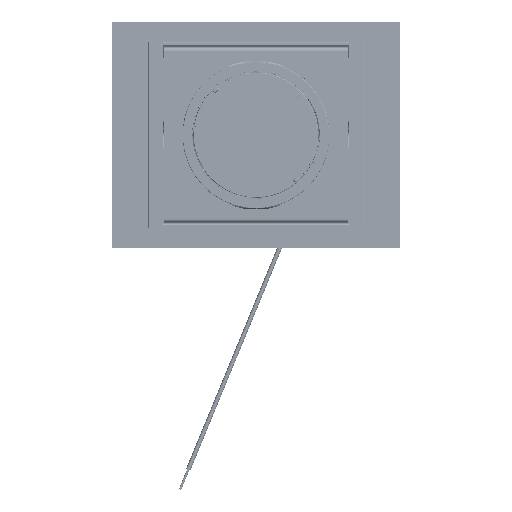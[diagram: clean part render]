
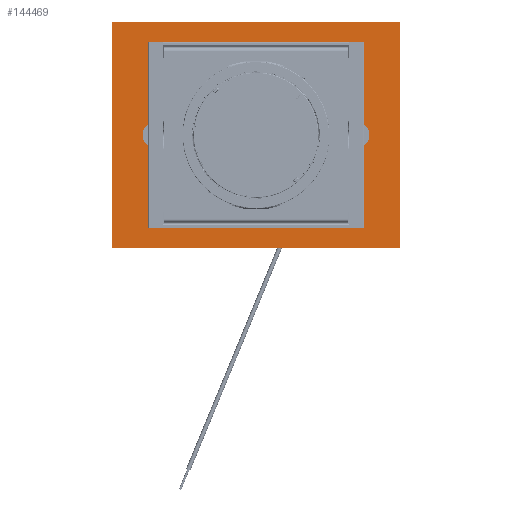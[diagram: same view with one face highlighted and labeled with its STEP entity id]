
A CAD part, front view. The second image highlights one B-rep face of the part: STEP entity #144469.
In plain terms, the highlighted planar face has unit normal (0, -1, 0).
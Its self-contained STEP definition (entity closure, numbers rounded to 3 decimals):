
#2232 = DIRECTION ( 'NONE',  ( 0., -1., 0. ) ) ;
#20918 = ORIENTED_EDGE ( 'NONE', *, *, #143258, .F. ) ;
#22736 = VERTEX_POINT ( 'NONE', #278048 ) ;
#24174 = CARTESIAN_POINT ( 'NONE',  ( -44.45, -1.219, 5.75 ) ) ;
#29573 = FACE_OUTER_BOUND ( 'NONE', #283660, .T. ) ;
#31857 = VECTOR ( 'NONE', #336757, 1000. ) ;
#35069 = CARTESIAN_POINT ( 'NONE',  ( 44.45, -1.219, 5.75 ) ) ;
#39735 = LINE ( 'NONE', #67089, #226355 ) ;
#42769 = DIRECTION ( 'NONE',  ( 0., 0., -1. ) ) ;
#43336 = EDGE_LOOP ( 'NONE', ( #296998, #105679 ) ) ;
#44532 = CIRCLE ( 'NONE', #312485, 5.75 ) ;
#45151 = VERTEX_POINT ( 'NONE', #45907 ) ;
#45907 = CARTESIAN_POINT ( 'NONE',  ( 44.45, -1.219, -5.75 ) ) ;
#49056 = LINE ( 'NONE', #76459, #31857 ) ;
#55252 = FACE_BOUND ( 'NONE', #237703, .T. ) ;
#56152 = EDGE_LOOP ( 'NONE', ( #292121, #299612 ) ) ;
#58467 = DIRECTION ( 'NONE',  ( 1., 0., 0. ) ) ;
#59294 = CIRCLE ( 'NONE', #267086, 5.75 ) ;
#59368 = CARTESIAN_POINT ( 'NONE',  ( 44.45, -1.219, 0. ) ) ;
#62986 = CARTESIAN_POINT ( 'NONE',  ( -29.5, -1.219, 4.763 ) ) ;
#66112 = DIRECTION ( 'NONE',  ( 0., 0., -1. ) ) ;
#67089 = CARTESIAN_POINT ( 'NONE',  ( 63.5, -1.219, 50. ) ) ;
#76459 = CARTESIAN_POINT ( 'NONE',  ( -63.5, -1.219, 50. ) ) ;
#76460 = VERTEX_POINT ( 'NONE', #137174 ) ;
#78100 = CARTESIAN_POINT ( 'NONE',  ( -44.45, -1.219, 0. ) ) ;
#78478 = VERTEX_POINT ( 'NONE', #125892 ) ;
#85855 = LINE ( 'NONE', #296447, #242627 ) ;
#89543 = VERTEX_POINT ( 'NONE', #62986 ) ;
#99115 = EDGE_CURVE ( 'NONE', #45151, #222831, #243743, .T. ) ;
#103882 = DIRECTION ( 'NONE',  ( 0., 1., 0. ) ) ;
#105679 = ORIENTED_EDGE ( 'NONE', *, *, #99115, .T. ) ;
#125892 = CARTESIAN_POINT ( 'NONE',  ( -44.45, -1.219, -5.75 ) ) ;
#137174 = CARTESIAN_POINT ( 'NONE',  ( -63.5, -1.219, 50. ) ) ;
#137504 = DIRECTION ( 'NONE',  ( 0., 1., 0. ) ) ;
#139173 = CARTESIAN_POINT ( 'NONE',  ( -29.5, -1.219, 0. ) ) ;
#143258 = EDGE_CURVE ( 'NONE', #200291, #76460, #49056, .T. ) ;
#144469 = ADVANCED_FACE ( 'NONE', ( #55252, #158040, #264142, #29573 ), #260787, .T. ) ;
#145553 = VERTEX_POINT ( 'NONE', #24174 ) ;
#147552 = CARTESIAN_POINT ( 'NONE',  ( 63.5, -1.219, -50. ) ) ;
#148900 = DIRECTION ( 'NONE',  ( 0., 1., 0. ) ) ;
#155430 = EDGE_CURVE ( 'NONE', #190483, #200291, #172845, .T. ) ;
#155724 = VECTOR ( 'NONE', #249920, 1000. ) ;
#158040 = FACE_BOUND ( 'NONE', #43336, .T. ) ;
#158563 = DIRECTION ( 'NONE',  ( 0., 0., -1. ) ) ;
#162492 = CIRCLE ( 'NONE', #167874, 4.763 ) ;
#166146 = ORIENTED_EDGE ( 'NONE', *, *, #155430, .F. ) ;
#167874 = AXIS2_PLACEMENT_3D ( 'NONE', #139173, #188898, #293340 ) ;
#171318 = ORIENTED_EDGE ( 'NONE', *, *, #177533, .F. ) ;
#172845 = LINE ( 'NONE', #277303, #155724 ) ;
#177533 = EDGE_CURVE ( 'NONE', #22736, #190483, #39735, .T. ) ;
#184590 = EDGE_CURVE ( 'NONE', #236523, #89543, #162492, .T. ) ;
#185557 = CARTESIAN_POINT ( 'NONE',  ( 44.45, -1.219, 0. ) ) ;
#188557 = ORIENTED_EDGE ( 'NONE', *, *, #315226, .T. ) ;
#188898 = DIRECTION ( 'NONE',  ( 0., 1., 0. ) ) ;
#189305 = DIRECTION ( 'NONE',  ( 0., 1., 0. ) ) ;
#190483 = VERTEX_POINT ( 'NONE', #147552 ) ;
#190750 = AXIS2_PLACEMENT_3D ( 'NONE', #236792, #2232, #211123 ) ;
#200291 = VERTEX_POINT ( 'NONE', #226466 ) ;
#210058 = DIRECTION ( 'NONE',  ( 0., 0., -1. ) ) ;
#211123 = DIRECTION ( 'NONE',  ( 0., 0., -1. ) ) ;
#214080 = EDGE_CURVE ( 'NONE', #76460, #22736, #85855, .T. ) ;
#214684 = CIRCLE ( 'NONE', #220045, 5.75 ) ;
#220045 = AXIS2_PLACEMENT_3D ( 'NONE', #258045, #103882, #210058 ) ;
#222831 = VERTEX_POINT ( 'NONE', #35069 ) ;
#226355 = VECTOR ( 'NONE', #324015, 1000. ) ;
#226466 = CARTESIAN_POINT ( 'NONE',  ( -63.5, -1.219, -50. ) ) ;
#236523 = VERTEX_POINT ( 'NONE', #281551 ) ;
#236792 = CARTESIAN_POINT ( 'NONE',  ( 0., -1.219, 0. ) ) ;
#237703 = EDGE_LOOP ( 'NONE', ( #188557, #309721 ) ) ;
#241946 = DIRECTION ( 'NONE',  ( 0., 0., -1. ) ) ;
#242627 = VECTOR ( 'NONE', #58467, 1000. ) ;
#242767 = ORIENTED_EDGE ( 'NONE', *, *, #214080, .F. ) ;
#243743 = CIRCLE ( 'NONE', #260122, 5.75 ) ;
#249920 = DIRECTION ( 'NONE',  ( -1., 0., 0. ) ) ;
#254452 = CIRCLE ( 'NONE', #270806, 4.763 ) ;
#257006 = EDGE_CURVE ( 'NONE', #89543, #236523, #254452, .T. ) ;
#258045 = CARTESIAN_POINT ( 'NONE',  ( -44.45, -1.219, 0. ) ) ;
#260122 = AXIS2_PLACEMENT_3D ( 'NONE', #59368, #292310, #66112 ) ;
#260787 = PLANE ( 'NONE',  #190750 ) ;
#264142 = FACE_BOUND ( 'NONE', #56152, .T. ) ;
#265951 = CARTESIAN_POINT ( 'NONE',  ( -29.5, -1.219, 0. ) ) ;
#267086 = AXIS2_PLACEMENT_3D ( 'NONE', #185557, #148900, #42769 ) ;
#270806 = AXIS2_PLACEMENT_3D ( 'NONE', #265951, #137504, #241946 ) ;
#277303 = CARTESIAN_POINT ( 'NONE',  ( -63.5, -1.219, -50. ) ) ;
#278048 = CARTESIAN_POINT ( 'NONE',  ( 63.5, -1.219, 50. ) ) ;
#281551 = CARTESIAN_POINT ( 'NONE',  ( -29.5, -1.219, -4.763 ) ) ;
#283660 = EDGE_LOOP ( 'NONE', ( #171318, #242767, #20918, #166146 ) ) ;
#292121 = ORIENTED_EDGE ( 'NONE', *, *, #257006, .T. ) ;
#292310 = DIRECTION ( 'NONE',  ( 0., 1., 0. ) ) ;
#293340 = DIRECTION ( 'NONE',  ( 0., 0., -1. ) ) ;
#296447 = CARTESIAN_POINT ( 'NONE',  ( -63.5, -1.219, 50. ) ) ;
#296998 = ORIENTED_EDGE ( 'NONE', *, *, #332206, .T. ) ;
#298210 = EDGE_CURVE ( 'NONE', #78478, #145553, #214684, .T. ) ;
#299612 = ORIENTED_EDGE ( 'NONE', *, *, #184590, .T. ) ;
#309721 = ORIENTED_EDGE ( 'NONE', *, *, #298210, .T. ) ;
#312485 = AXIS2_PLACEMENT_3D ( 'NONE', #78100, #189305, #158563 ) ;
#315226 = EDGE_CURVE ( 'NONE', #145553, #78478, #44532, .T. ) ;
#324015 = DIRECTION ( 'NONE',  ( 0., 0., -1. ) ) ;
#332206 = EDGE_CURVE ( 'NONE', #222831, #45151, #59294, .T. ) ;
#336757 = DIRECTION ( 'NONE',  ( 0., 0., 1. ) ) ;
